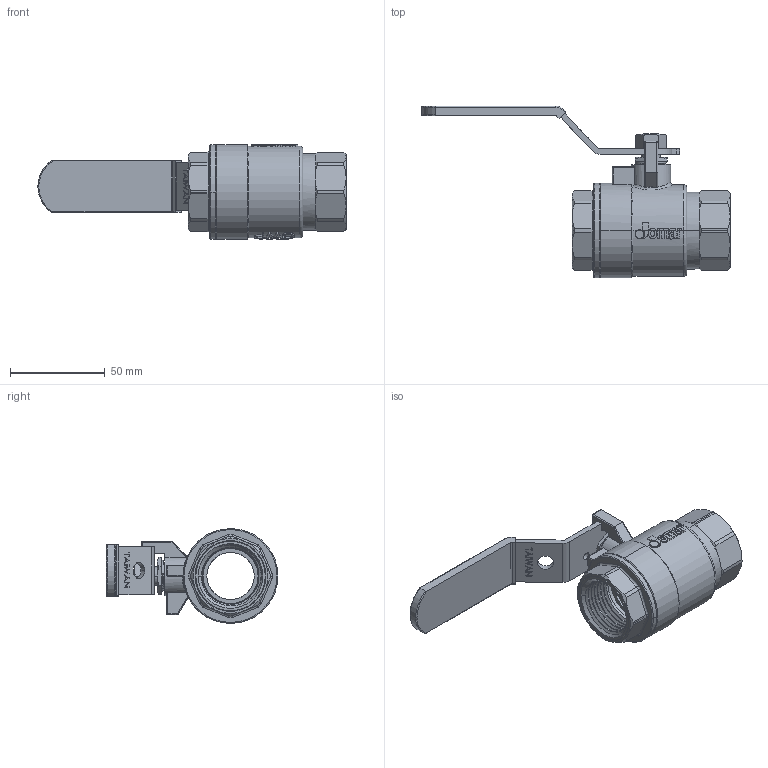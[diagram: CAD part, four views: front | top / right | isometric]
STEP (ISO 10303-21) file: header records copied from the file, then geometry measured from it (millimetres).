
FILE_DESCRIPTION (( 'STEP AP203' ), '1' );
FILE_NAME ('ABL725-無掛鎖-1''''JOMAR球閥組合.STEP', '2026-04-13T01:43:45', ( '' ), ( '' ), 'SwSTEP 2.0', 'SolidWorks 2018', '' );
FILE_SCHEMA (( 'CONFIG_CONTROL_DESIGN' ));
Length unit declared in the file: millimetre
Products named in the file (13): DN20-CBL724-HANDLE & SLEEVE 組合(黃色T膠套); GBL205 (組裝); RBL264; CBL235-20230914改; BBL725-1''''JOMAR球閥體-有鉛-端面插溝無LF; CBL215-黃色膠套-T-200CSS; EBL205B; TBL265(無鑽孔); NBL265; EBL205A; EBL215э; BBL725A-1''''JOMAR球閥八角頭-有鉛端面插溝; ABL725-無掛鎖-1''''JOMAR球閥組合
Assembly tree (13 placements, depth 3):
  ABL725-無掛鎖-1''''JOMAR球閥組合
    BBL725-1''''JOMAR球閥體-有鉛-端面插溝無LF
    RBL264
    EBL205A
    EBL205B
    GBL205 (組裝)
    BBL725A-1''''JOMAR球閥八角頭-有鉛端面插溝
    EBL215э  x2
    NBL265
    TBL265(無鑽孔)
    DN20-CBL724-HANDLE & SLEEVE 組合(黃色T膠套)
      CBL235-20230914改
      CBL215-黃色膠套-T-200CSS
Bounding box: 162.7 x 90.71 x 50 mm (x, y, z)
Volume: 100584.6 mm3; surface area: 67496 mm2
Topology: 12 solids, 12 shells, 1466 faces, 3868 edges, 2525 vertices
Faces by surface type: plane 594, bspline 462, cylinder 243, cone 124, torus 29, sphere 14
Entity records: 83624 total; most frequent: CARTESIAN_POINT 50175, ORIENTED_EDGE 7660, DIRECTION 4933, EDGE_CURVE 3830, VERTEX_POINT 2505, LINE 1953, VECTOR 1953, EDGE_LOOP 1585
